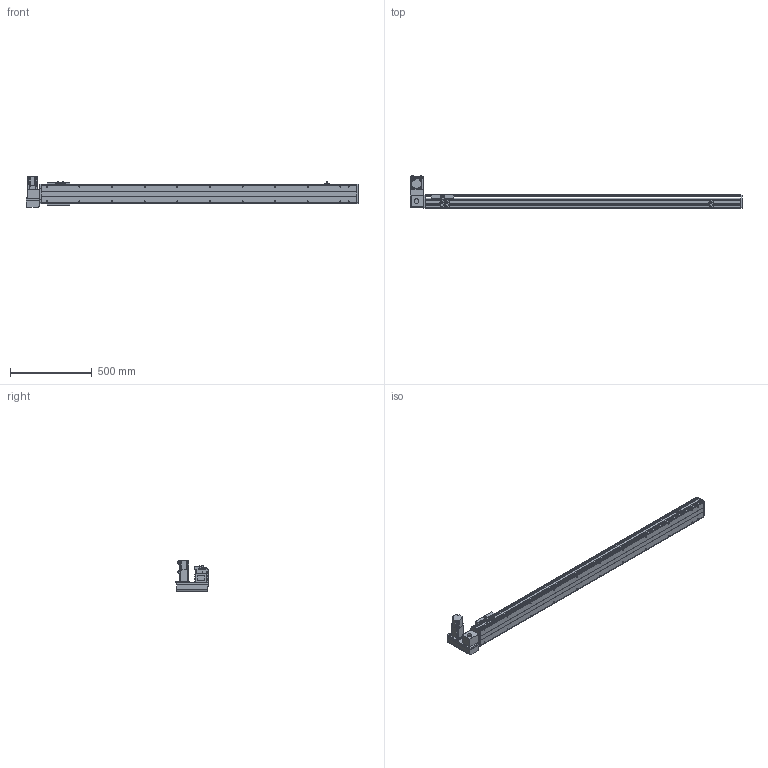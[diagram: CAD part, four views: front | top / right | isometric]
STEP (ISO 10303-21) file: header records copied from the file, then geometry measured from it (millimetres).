
FILE_DESCRIPTION( ( 'STEP AP214' ), '1' );
FILE_NAME( 'x:/temp/worker_27/temp/exporttempdir_6708_116_NTYWj/format_0/PBS120-P40-S1650-LU-T40-C1-N(0).stp', '2022-06-06T00:32:45', ( 'License CC BY-ND 4.0' ), ( 'CADENAS' ), ' ', 'PARTsolutions', ' ' );
FILE_SCHEMA( ( 'AUTOMOTIVE_DESIGN { 1 0 10303 214 1 1 1 1 }' ) );
Length unit declared in the file: millimetre
Products named in the file (7): PBS120-P40-S1650-LU-T40-C1-N(0); _PBS120-S1650()_body; _PBS120T-LU_motors; _T40-p1; _PBS120_sliser; _PBS120_plant; _PBS120_sensor
Assembly tree (8 placements, depth 2):
  PBS120-P40-S1650-LU-T40-C1-N(0)
    _PBS120-S1650()_body
    _PBS120T-LU_motors
    _T40-p1
    _PBS120_sliser
    _PBS120_plant
    _PBS120_sensor  x3
Bounding box: 2036 x 198 x 189.7 mm (x, y, z)
Volume: 8076803.3 mm3; surface area: 1630709.6 mm2
Topology: 8 solids, 8 shells, 846 faces, 2186 edges, 1405 vertices
Faces by surface type: plane 555, cylinder 235, cone 54, torus 2
Full cylindrical faces by diameter (mm): 2.459 x6, 3.242 x4, 4 x2, 4.134 x4, 4.5 x10, 4.917 x26, 5.5 x11, 6 x2, 6.6 x1, 7 x2, 8.5 x4, 9 x4, 12 x1, 14 x1, 30 x2, 40 x1, 50 x2
Entity records: 27828 total; most frequent: DIRECTION 3812, CARTESIAN_POINT 3731, ORIENTED_EDGE 3538, EDGE_CURVE 1769, AXIS2_PLACEMENT_3D 1292, LINE 1228, VECTOR 1228, VERTEX_POINT 1211
